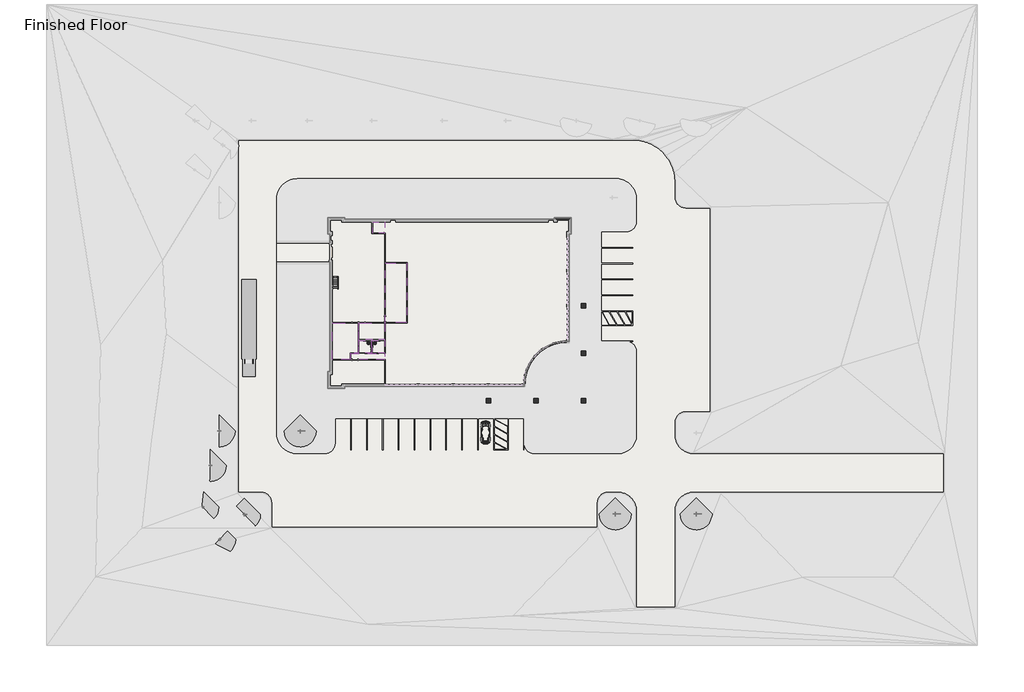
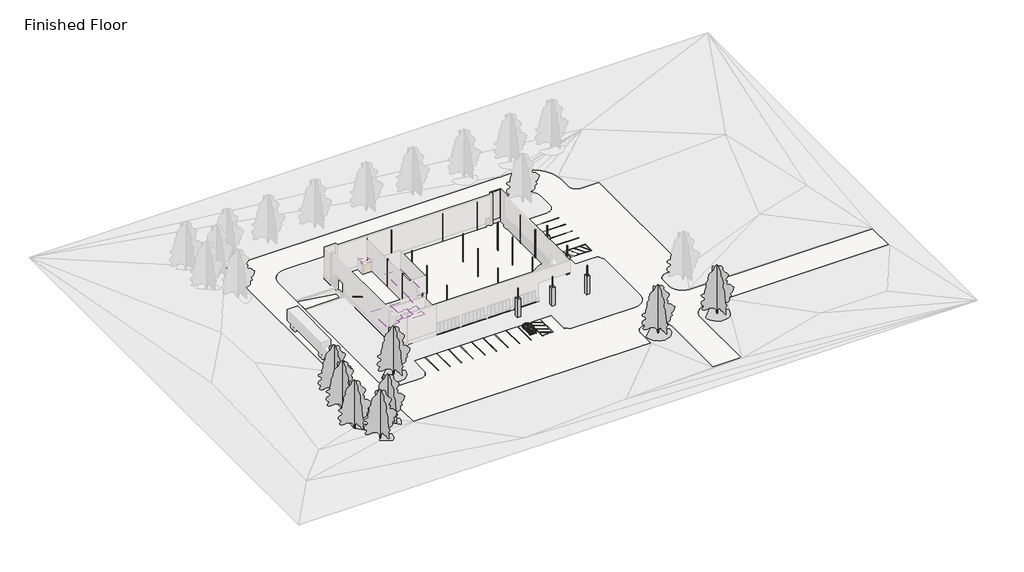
# One storey, part 6 of 7: 34 columns, 18 proxies, 8 geographic elements, 7 coverings, 4 slabs, 2 flow terminals, 2 railings, 2 walls, 1 stair flight.
"""IFC4 building model written with IfcOpenShell, lengths in millimetres."""

from ifc_helpers import new_model, si_unit, point, frame, frame_2d, origin, origin_with_axes, place, context, project, spatial, polyline, circle_curve, trimmed, segment, composite_curve, outline, extrude, faceted_brep, triangles, transform, mapped, element, save
from components import specialty_equipment_9c1522b1, specialty_equipment_28a0cf3e, proxy_832_grab_bars_51fee9e1, proxy_832_grab_bars_99aa9c40, proxy_832_grab_bars_3fec91fc, proxy_832_grab_bars_8b3c1caf, parking_space_9_x_18_90_deg_9fe051ab, rpc_beetle_rpc_beetle_e6dad58a, sa12_a1c1abd2, sa12_6de3b1ef, hss_hollow_structural_section_column_hss4x4x1_4_63ca78b6, flow_terminal_a7ec1c32, flow_terminal_bb9b5f27, rpc_tree_deciduous_lombardy_poplar_40_01077960, guardrail_pipe_35f92d01, guardrail_pipe_0cfc6b11, stair_flight_92ed7c1f

model = new_model("IFC4")

# Units and contexts
model_context = context("Model", 3, world=origin())
ifc_project = project(units=[si_unit("LENGTHUNIT", "METRE", prefix="MILLI")], contexts=[model_context])

# Site, building, storey
site = spatial("IfcSite", under=ifc_project)
building = spatial("IfcBuilding", under=site)
storey = spatial("IfcBuildingStorey", under=building, Name="Finished Floor", Elevation=0.0)

# Proxies
placement = place(None, origin())
element("IfcBuildingElementProxy", 1, Name="Building Element Proxy", at=placement, inside=storey, context=model_context, shape_type="Tessellation", body=[
    triangles([(-22521.0718506, 7009.9285172, -304.9595106), (-22521.0718506, 7009.9285172, 0.0), (-22521.0718506, 6866.5983124, -304.9595106), (-22521.0718506, 6866.5983124, 0.0), (-22521.0718506, 6736.0620941, -304.9595106), (-22521.0718506, 6736.0620941, 0.0), (-22521.0718506, 6241.971904, -304.9595106), (-22521.0718506, 6241.971904, 0.0), (-22521.0718506, 6221.2923523, -304.9595106), (-22521.0718506, 6221.2923523, 0.0), (-22521.0718506, -11917.7318573, -304.9595106), (-22521.0718506, -11917.7318573, 0.0), (-22825.8718506, -11917.7318573, -304.9595106), (-22825.8718506, -11917.7318573, 0.0), (-22825.8718506, -14813.3318573, -304.9595106), (-22825.8718506, -14813.3318573, 0.0), (-19930.2718506, -14813.3318573, -304.9595106), (-19930.2718506, -14813.3318573, 0.0), (-19930.2718506, -14508.5318573, -304.9595106), (-19930.2718506, -14508.5318573, 0.0), (2090.6561096, -14508.5318573, -304.9595106), (2090.6561096, -14508.5318573, 0.0), (2387.6770786, -14508.5318573, -304.9595106), (2387.6770786, -14508.5318573, 0.0), (2691.9551628, -14508.5318573, -304.9595106), (2691.9551628, -14508.5318573, 0.0), (2986.9037292, -14508.5318573, -304.9595106), (2986.9037292, -14508.5318573, 0.0), (11098.6690613, -14508.5318573, -304.9595106), (11098.6690613, -14508.5318573, 0.0), (11094.5018738, -13674.2188293, -304.9595106), (11094.5018738, -13674.2188293, 0.0), (11184.366156, -12844.7485291, -304.9595106), (11184.366156, -12844.7485291, 0.0), (11367.1177917, -12030.6865906, -304.9595106), (11367.1177917, -12030.6865906, 0.0), (11640.4278534, -11242.399823, -304.9595106), (11640.4278534, -11242.399823, 0.0), (12000.8174835, -10489.9271484, -304.9595106), (12000.8174835, -10489.9271484, 0.0), (12443.6951019, -9782.8528656, -304.9595106), (12443.6951019, -9782.8528656, 0.0), (12963.4215179, -9130.1816574, -304.9595106), (12963.4215179, -9130.1816574, 0.0), (13133.0425598, -8960.5606155, -304.9595106), (13133.0425598, -8960.5606155, 0.0), (13299.7951721, -8793.8080032, -304.9595106), (13299.7951721, -8793.8080032, 0.0), (13553.3773682, -8540.2258072, -304.9595106), (13553.3773682, -8540.2258072, 0.0), (14206.0491577, -8020.4993912, -304.9595106), (14206.0491577, -8020.4993912, 0.0), (14913.1234406, -7577.6211914, -304.9595106), (14913.1234406, -7577.6211914, 0.0), (15665.5949524, -7217.2321426, -304.9595106), (15665.5949524, -7217.2321426, 0.0), (16453.8828827, -6943.9214996, -304.9595106), (16453.8828827, -6943.9214996, 0.0), (17267.9448212, -6761.1704453, -304.9595106), (17267.9448212, -6761.1704453, 0.0), (18097.4139587, -6671.306163, -304.9595106), (18097.4139587, -6671.306163, 0.0), (18931.7269867, -6675.4733505, -304.9595106), (18931.7269867, -6675.4733505, 0.0), (18931.7269867, 11856.6681427, -304.9595106), (18931.7269867, 11856.6681427, 0.0), (19236.5269867, 11856.6681427, -304.9595106), (19236.5269867, 11856.6681427, 0.0)], [[1, 4, 2], [1, 3, 4], [3, 6, 4], [3, 5, 6], [5, 8, 6], [5, 7, 8], [7, 10, 8], [7, 9, 10], [9, 12, 10], [9, 11, 12], [11, 14, 12], [11, 13, 14], [13, 16, 14], [13, 15, 16], [15, 18, 16], [15, 17, 18], [17, 20, 18], [17, 19, 20], [19, 22, 20], [19, 21, 22], [21, 24, 22], [21, 23, 24], [23, 26, 24], [23, 25, 26], [25, 28, 26], [25, 27, 28], [27, 30, 28], [27, 29, 30], [29, 32, 30], [29, 31, 32], [31, 34, 32], [31, 33, 34], [33, 36, 34], [33, 35, 36], [35, 38, 36], [35, 37, 38], [37, 40, 38], [37, 39, 40], [39, 42, 40], [39, 41, 42], [41, 44, 42], [41, 43, 44], [43, 46, 44], [43, 45, 46], [45, 48, 46], [45, 47, 48], [47, 50, 48], [47, 49, 50], [49, 52, 50], [49, 51, 52], [51, 54, 52], [51, 53, 54], [53, 56, 54], [53, 55, 56], [55, 58, 56], [55, 57, 58], [57, 60, 58], [57, 59, 60], [59, 62, 60], [59, 61, 62], [61, 64, 62], [61, 63, 64], [63, 66, 64], [63, 65, 66], [65, 68, 66], [65, 67, 68]], closed=False),
    triangles([(19236.5269867, 11856.6681427, -304.9595106), (19236.5269867, 11856.6681427, 0.0), (19236.5269867, 14041.7661621, -304.9595106), (19236.5269867, 14041.7661621, 0.0), (19236.5269867, 14285.8966095, -304.9595106), (19236.5269867, 14285.8966095, 0.0), (19236.5269867, 14752.2681427, -304.9595106), (19236.5269867, 14752.2681427, 0.0), (16340.9269867, 14752.2681427, -304.9595106), (16340.9269867, 14752.2681427, 0.0), (16340.9269867, 14447.4681427, -304.9595106), (16340.9269867, 14447.4681427, 0.0), (-5294.182663, 14447.4681427, -304.9595106), (-5294.182663, 14447.4681427, 0.0), (-11222.3161652, 14447.4681427, -304.9595106), (-11222.3161652, 14447.4681427, 0.0), (-19930.2718506, 14447.4681427, -304.9595106), (-19930.2718506, 14447.4681427, 0.0), (-19930.2718506, 14752.2681427, -304.9595106), (-19930.2718506, 14752.2681427, 0.0), (-22825.8718506, 14752.2681427, -304.9595106), (-22825.8718506, 14752.2681427, 0.0), (-22825.8718506, 11856.6681427, -304.9595106), (-22825.8718506, 11856.6681427, 0.0), (-22521.0718506, 11856.6681427, -304.9595106), (-22521.0718506, 11856.6681427, 0.0), (-22521.0718506, 10588.4118347, -304.9595106), (-22521.0718506, 10588.4118347, 0.0), (-22521.0718506, 10532.9012695, -304.9595106), (-22521.0718506, 10532.9012695, 0.0), (-22521.0718506, 10362.7290985, -304.9595106), (-22521.0718506, 10362.7290985, 0.0)], [[1, 4, 2], [1, 3, 4], [3, 6, 4], [3, 5, 6], [5, 8, 6], [5, 7, 8], [7, 10, 8], [7, 9, 10], [9, 12, 10], [9, 11, 12], [11, 14, 12], [11, 13, 14], [13, 16, 14], [13, 15, 16], [15, 18, 16], [15, 17, 18], [17, 20, 18], [17, 19, 20], [19, 22, 20], [19, 21, 22], [21, 24, 22], [21, 23, 24], [23, 26, 24], [23, 25, 26], [25, 28, 26], [25, 27, 28], [27, 30, 28], [27, 29, 30], [29, 32, 30], [29, 31, 32]], closed=False),
    triangles([(19236.5269867, 11856.6681427, -304.9595106), (19236.5269867, 14752.2681427, -304.9595106), (16340.9269867, 14752.2681427, -304.9595106), (16340.9269867, 14447.4681427, -304.9595106), (-19930.2718506, 14447.4681427, -304.9595106), (-19930.2718506, 14752.2681427, -304.9595106), (-22825.8718506, 14752.2681427, -304.9595106), (-22825.8718506, 11856.6681427, -304.9595106), (-22521.0718506, 11856.6681427, -304.9595106), (-22521.0718506, -11917.7318573, -304.9595106), (-22825.8718506, -11917.7318573, -304.9595106), (-22825.8718506, -14813.3318573, -304.9595106), (-19930.2718506, -14813.3318573, -304.9595106), (-19930.2718506, -14508.5318573, -304.9595106), (11098.6690613, -14508.5318573, -304.9595106), (11094.5018738, -13674.2188293, -304.9595106), (11184.366156, -12844.7485291, -304.9595106), (11367.1177917, -12030.6865906, -304.9595106), (11640.4278534, -11242.399823, -304.9595106), (12000.8174835, -10489.9271484, -304.9595106), (12443.6951019, -9782.8528656, -304.9595106), (12963.4215179, -9130.1816574, -304.9595106), (13553.3773682, -8540.2258072, -304.9595106), (14206.0491577, -8020.4993912, -304.9595106), (14913.1234406, -7577.6211914, -304.9595106), (15665.5949524, -7217.2321426, -304.9595106), (16453.8828827, -6943.9214996, -304.9595106), (17267.9448212, -6761.1704453, -304.9595106), (18097.4139587, -6671.306163, -304.9595106), (18931.7269867, -6675.4733505, -304.9595106), (18931.7269867, 11856.6681427, -304.9595106)], [[12, 13, 14], [12, 14, 10], [15, 16, 14], [17, 18, 14], [16, 17, 14], [14, 18, 19], [7, 8, 9], [9, 5, 7], [14, 5, 10], [20, 5, 14], [6, 7, 5], [20, 14, 19], [5, 9, 10], [11, 12, 10], [22, 5, 21], [22, 23, 4], [22, 4, 5], [24, 25, 4], [26, 27, 31], [25, 26, 31], [23, 24, 4], [25, 31, 4], [2, 3, 4], [31, 28, 29], [31, 27, 28], [30, 31, 29], [1, 2, 31], [31, 2, 4], [5, 20, 21]], closed=False),
])
specialty_equipment_shape = specialty_equipment_9c1522b1(model_context)
element("IfcBuildingElementProxy", 2, Name="Bradley-Washroom_Accessories-Mirrors-740_Custom : Bradley-Washroom_Accessories-Mirrors-740_Custom", ObjectType="Bradley-Washroom_Accessories-Mirrors-740_Custom : Bradley-Washroom_Accessories-Mirrors-740_Custom", at=placement, inside=storey, context=model_context, shape_type="MappedRepresentation", body=[
    mapped(specialty_equipment_shape, transform((-15156.6602721, -8294.2625557, 1371.0753881), x_axis=(0.0, 1.0, 0.0), y_axis=(0.0, 0.0, 1.0), z_axis=(1.0, 0.0, 0.0))),
])
specialty_equipment_2_shape = specialty_equipment_28a0cf3e(model_context)
element("IfcBuildingElementProxy", 3, Name="Bradley-Washroom_Accessories-Mirrors-740_Custom : Bradley-Washroom_Accessories-Mirrors-740_Custom", ObjectType="Bradley-Washroom_Accessories-Mirrors-740_Custom : Bradley-Washroom_Accessories-Mirrors-740_Custom", at=placement, inside=storey, context=model_context, shape_type="MappedRepresentation", body=[
    mapped(specialty_equipment_2_shape, transform((-15328.1102721, -8294.2625557, 1371.0753881), x_axis=(0.0, 1.0, 0.0), y_axis=(0.0, 0.0, -1.0), z_axis=(-1.0, 0.0, 0.0))),
])
proxy_832_grab_bars_shape = proxy_832_grab_bars_51fee9e1(model_context)
element("IfcBuildingElementProxy", 4, Name="832_Grab_Bars : 8320-001360", ObjectType="832_Grab_Bars : 8320-001360", at=placement, inside=storey, context=model_context, shape_type="MappedRepresentation", body=[
    mapped(proxy_832_grab_bars_shape, transform((-15156.6602721, -7387.8000557, 1374.775), x_axis=(0.0, 1.0, 0.0), y_axis=(0.0, 0.0, 1.0), z_axis=(1.0, 0.0, 0.0))),
])
proxy_832_grab_bars_2_shape = proxy_832_grab_bars_99aa9c40(model_context)
element("IfcBuildingElementProxy", 5, Name="832_Grab_Bars : 8320-001420", ObjectType="832_Grab_Bars : 8320-001420", at=placement, inside=storey, context=model_context, shape_type="MappedRepresentation", body=[
    mapped(proxy_832_grab_bars_2_shape, transform((-14395.8938987, -6516.2625557, 1374.775), x_axis=(1.0, 0.0, 0.0), y_axis=(0.0, 0.0, 1.0), z_axis=(0.0, -1.0, 0.0))),
])
proxy_832_grab_bars_3_shape = proxy_832_grab_bars_3fec91fc(model_context)
element("IfcBuildingElementProxy", 6, Name="832_Grab_Bars : 8320-001360", ObjectType="832_Grab_Bars : 8320-001360", at=placement, inside=storey, context=model_context, shape_type="MappedRepresentation", body=[
    mapped(proxy_832_grab_bars_3_shape, transform((-15328.1102721, -7387.8000557, 1374.775), x_axis=(0.0, 1.0, 0.0), y_axis=(0.0, 0.0, -1.0), z_axis=(-1.0, 0.0, 0.0))),
])
proxy_832_grab_bars_4_shape = proxy_832_grab_bars_8b3c1caf(model_context)
element("IfcBuildingElementProxy", 7, Name="832_Grab_Bars : 8320-001420", ObjectType="832_Grab_Bars : 8320-001420", at=placement, inside=storey, context=model_context, shape_type="MappedRepresentation", body=[
    mapped(proxy_832_grab_bars_4_shape, transform((-16088.8766454, -6516.2625557, 1374.775), x_axis=(-1.0, 0.0, 0.0), y_axis=(0.0, 0.0, -1.0), z_axis=(0.0, -1.0, 0.0))),
])
parking_space_9_x_18_90_deg_shape = parking_space_9_x_18_90_deg_9fe051ab(model_context)
element("IfcBuildingElementProxy", 8, Name="Parking Space : 9' x 18' - 90 deg", ObjectType="Parking Space : 9' x 18' - 90 deg", at=placement, inside=storey, context=model_context, shape_type="MappedRepresentation", body=[
    mapped(parking_space_9_x_18_90_deg_shape, transform((378.6147279, -19994.9313057, -101.6), x_axis=(-1.0, 0.0, 0.0), y_axis=(0.0, -1.0, 0.0), z_axis=(0.0, 0.0, 1.0))),
])
element("IfcBuildingElementProxy", 9, Name="Parking Space : 9' x 18' - 90 deg", ObjectType="Parking Space : 9' x 18' - 90 deg", at=placement, inside=storey, context=model_context, shape_type="MappedRepresentation", body=[
    mapped(parking_space_9_x_18_90_deg_shape, transform((-2364.5852721, -19994.9313057, -101.6), x_axis=(-1.0, 0.0, 0.0), y_axis=(0.0, -1.0, 0.0), z_axis=(0.0, 0.0, 1.0))),
])
element("IfcBuildingElementProxy", 10, Name="Parking Space : 9' x 18' - 90 deg", ObjectType="Parking Space : 9' x 18' - 90 deg", at=placement, inside=storey, context=model_context, shape_type="MappedRepresentation", body=[
    mapped(parking_space_9_x_18_90_deg_shape, transform((-5107.7852721, -19994.9313057, -101.6), x_axis=(-1.0, 0.0, 0.0), y_axis=(0.0, -1.0, 0.0), z_axis=(0.0, 0.0, 1.0))),
])
element("IfcBuildingElementProxy", 11, Name="Parking Space : 9' x 18' - 90 deg", ObjectType="Parking Space : 9' x 18' - 90 deg", at=placement, inside=storey, context=model_context, shape_type="MappedRepresentation", body=[
    mapped(parking_space_9_x_18_90_deg_shape, transform((-7850.9852721, -19994.9313057, -101.6), x_axis=(-1.0, 0.0, 0.0), y_axis=(0.0, -1.0, 0.0), z_axis=(0.0, 0.0, 1.0))),
])
element("IfcBuildingElementProxy", 12, Name="Parking Space : 9' x 18' - 90 deg", ObjectType="Parking Space : 9' x 18' - 90 deg", at=placement, inside=storey, context=model_context, shape_type="MappedRepresentation", body=[
    mapped(parking_space_9_x_18_90_deg_shape, transform((-10594.1852721, -19994.9313057, -101.6), x_axis=(-1.0, 0.0, 0.0), y_axis=(0.0, -1.0, 0.0), z_axis=(0.0, 0.0, 1.0))),
])
element("IfcBuildingElementProxy", 13, Name="Parking Space : 9' x 18' - 90 deg", ObjectType="Parking Space : 9' x 18' - 90 deg", at=placement, inside=storey, context=model_context, shape_type="MappedRepresentation", body=[
    mapped(parking_space_9_x_18_90_deg_shape, transform((-13337.3852721, -19994.9313057, -101.6), x_axis=(-1.0, 0.0, 0.0), y_axis=(0.0, -1.0, 0.0), z_axis=(0.0, 0.0, 1.0))),
])
element("IfcBuildingElementProxy", 14, Name="Parking Space : 9' x 18' - 90 deg", ObjectType="Parking Space : 9' x 18' - 90 deg", at=placement, inside=storey, context=model_context, shape_type="MappedRepresentation", body=[
    mapped(parking_space_9_x_18_90_deg_shape, transform((-16080.5852721, -19994.9313057, -101.6), x_axis=(-1.0, 0.0, 0.0), y_axis=(0.0, -1.0, 0.0), z_axis=(0.0, 0.0, 1.0))),
])
element("IfcBuildingElementProxy", 15, Name="Parking Space : 9' x 18' - 90 deg", ObjectType="Parking Space : 9' x 18' - 90 deg", at=placement, inside=storey, context=model_context, shape_type="MappedRepresentation", body=[
    mapped(parking_space_9_x_18_90_deg_shape, transform((-18823.7852721, -19994.9313057, -101.6), x_axis=(-1.0, 0.0, 0.0), y_axis=(0.0, -1.0, 0.0), z_axis=(0.0, 0.0, 1.0))),
])
rpc_beetle_rpc_beetle_shape = rpc_beetle_rpc_beetle_e6dad58a(model_context)
element("IfcBuildingElementProxy", 16, Name="RPC Beetle : RPC Beetle", ObjectType="RPC Beetle : RPC Beetle", at=placement, inside=storey, context=model_context, shape_type="MappedRepresentation", body=[
    mapped(rpc_beetle_rpc_beetle_shape, transform((4429.9147279, -23679.5188057, -101.6), x_axis=(1.0, 0.0, 0.0), y_axis=(0.0, 1.0, 0.0), z_axis=(0.0, 0.0, 1.0))),
])
sa12_shape = sa12_a1c1abd2(model_context)
element("IfcBuildingElementProxy", 17, Name="Security_Accessories-Bradley-SA12 : SA12", ObjectType="Security_Accessories-Bradley-SA12 : SA12", at=placement, inside=storey, context=model_context, shape_type="MappedRepresentation", body=[
    mapped(sa12_shape, transform((-14264.4852721, -6516.2625557, 482.6), x_axis=(1.0, 0.0, 0.0), y_axis=(0.0, 0.0, 1.0), z_axis=(0.0, -1.0, 0.0))),
])
sa12_2_shape = sa12_6de3b1ef(model_context)
element("IfcBuildingElementProxy", 18, Name="Security_Accessories-Bradley-SA12 : SA12", ObjectType="Security_Accessories-Bradley-SA12 : SA12", at=placement, inside=storey, context=model_context, shape_type="MappedRepresentation", body=[
    mapped(sa12_2_shape, transform((-16137.7352721, -6516.2625557, 310.7591476), x_axis=(-1.0, 0.0, 0.0), y_axis=(0.0, 0.0, -1.0), z_axis=(0.0, -1.0, 0.0))),
])

# Columns
hss_hollow_structural_section_column_hss4x4x1_4_shape = hss_hollow_structural_section_column_hss4x4x1_4_63ca78b6(model_context)
element("IfcColumn", 19, ObjectType="HSS-Hollow Structural Section-Column : HSS4X4X1/4", at=placement, inside=storey, context=model_context, shape_type="MappedRepresentation", body=[
    mapped(hss_hollow_structural_section_column_hss4x4x1_4_shape, transform((-22117.8477721, -514.7188057, 0.0), x_axis=(-1.0, 0.0, 0.0), y_axis=(0.0, -1.0, 0.0), z_axis=(0.0, 0.0, 1.0))),
])
element("IfcColumn", 20, ObjectType="HSS-Hollow Structural Section-Column : HSS4X4X1/4", at=placement, inside=storey, context=model_context, shape_type="MappedRepresentation", body=[
    mapped(hss_hollow_structural_section_column_hss4x4x1_4_shape, transform((-22117.8477721, -8730.8250557, 0.0), x_axis=(-1.0, 0.0, 0.0), y_axis=(0.0, -1.0, 0.0), z_axis=(0.0, 0.0, 1.0))),
])
element("IfcColumn", 21, ObjectType="HSS-Hollow Structural Section-Column : HSS4X4X1/4", at=placement, inside=storey, context=model_context, shape_type="MappedRepresentation", body=[
    mapped(hss_hollow_structural_section_column_hss4x4x1_4_shape, transform((-22117.8477721, 5555.8811943, 0.0), x_axis=(-1.0, 0.0, 0.0), y_axis=(0.0, -1.0, 0.0), z_axis=(0.0, 0.0, 1.0))),
])
element("IfcColumn", 22, ObjectType="HSS-Hollow Structural Section-Column : HSS4X4X1/4", at=placement, inside=storey, context=model_context, shape_type="MappedRepresentation", body=[
    mapped(hss_hollow_structural_section_column_hss4x4x1_4_shape, transform((-12943.6852721, 14044.2436943, 0.0), x_axis=(-1.0, 0.0, 0.0), y_axis=(0.0, -1.0, 0.0), z_axis=(0.0, 0.0, 1.0))),
])
element("IfcColumn", 23, ObjectType="HSS-Hollow Structural Section-Column : HSS4X4X1/4", at=placement, inside=storey, context=model_context, shape_type="MappedRepresentation", body=[
    mapped(hss_hollow_structural_section_column_hss4x4x1_4_shape, transform((-12943.6852721, -514.7188057, 0.0), x_axis=(-1.0, 0.0, 0.0), y_axis=(0.0, -1.0, 0.0), z_axis=(0.0, 0.0, 1.0))),
])
element("IfcColumn", 24, ObjectType="HSS-Hollow Structural Section-Column : HSS4X4X1/4", at=placement, inside=storey, context=model_context, shape_type="MappedRepresentation", body=[
    mapped(hss_hollow_structural_section_column_hss4x4x1_4_shape, transform((-12943.6852721, -8730.8250557, 0.0), x_axis=(-1.0, 0.0, 0.0), y_axis=(0.0, -1.0, 0.0), z_axis=(0.0, 0.0, 1.0))),
])
element("IfcColumn", 25, ObjectType="HSS-Hollow Structural Section-Column : HSS4X4X1/4", at=placement, inside=storey, context=model_context, shape_type="MappedRepresentation", body=[
    mapped(hss_hollow_structural_section_column_hss4x4x1_4_shape, transform((-12943.6852721, -14105.3063057, 0.0), x_axis=(-1.0, 0.0, 0.0), y_axis=(0.0, -1.0, 0.0), z_axis=(0.0, 0.0, 1.0))),
])
element("IfcColumn", 26, ObjectType="HSS-Hollow Structural Section-Column : HSS4X4X1/4", at=placement, inside=storey, context=model_context, shape_type="MappedRepresentation", body=[
    mapped(hss_hollow_structural_section_column_hss4x4x1_4_shape, transform((-12943.6852721, 5555.8811943, 0.0), x_axis=(-1.0, 0.0, 0.0), y_axis=(0.0, -1.0, 0.0), z_axis=(0.0, 0.0, 1.0))),
])
element("IfcColumn", 27, ObjectType="HSS-Hollow Structural Section-Column : HSS4X4X1/4", at=placement, inside=storey, context=model_context, shape_type="MappedRepresentation", body=[
    mapped(hss_hollow_structural_section_column_hss4x4x1_4_shape, transform((4937.9147279, 14044.2436943, 0.0), x_axis=(-1.0, 0.0, 0.0), y_axis=(0.0, -1.0, 0.0), z_axis=(0.0, 0.0, 1.0))),
])
element("IfcColumn", 28, ObjectType="HSS-Hollow Structural Section-Column : HSS4X4X1/4", at=placement, inside=storey, context=model_context, shape_type="MappedRepresentation", body=[
    mapped(hss_hollow_structural_section_column_hss4x4x1_4_shape, transform((4937.9147279, -514.7188057, 0.0), x_axis=(-1.0, 0.0, 0.0), y_axis=(0.0, -1.0, 0.0), z_axis=(0.0, 0.0, 1.0))),
])
element("IfcColumn", 29, ObjectType="HSS-Hollow Structural Section-Column : HSS4X4X1/4", at=placement, inside=storey, context=model_context, shape_type="MappedRepresentation", body=[
    mapped(hss_hollow_structural_section_column_hss4x4x1_4_shape, transform((4937.9147279, -8730.8250557, 0.0), x_axis=(-1.0, 0.0, 0.0), y_axis=(0.0, -1.0, 0.0), z_axis=(0.0, 0.0, 1.0))),
])
element("IfcColumn", 30, ObjectType="HSS-Hollow Structural Section-Column : HSS4X4X1/4", at=placement, inside=storey, context=model_context, shape_type="MappedRepresentation", body=[
    mapped(hss_hollow_structural_section_column_hss4x4x1_4_shape, transform((4937.9147279, -14105.3063057, 0.0), x_axis=(-1.0, 0.0, 0.0), y_axis=(0.0, -1.0, 0.0), z_axis=(0.0, 0.0, 1.0))),
])
element("IfcColumn", 31, ObjectType="HSS-Hollow Structural Section-Column : HSS4X4X1/4", at=placement, inside=storey, context=model_context, shape_type="MappedRepresentation", body=[
    mapped(hss_hollow_structural_section_column_hss4x4x1_4_shape, transform((4937.9147279, -16946.9313057, 0.0), x_axis=(-1.0, 0.0, 0.0), y_axis=(0.0, -1.0, 0.0), z_axis=(0.0, 0.0, 1.0))),
])
element("IfcColumn", 32, ObjectType="HSS-Hollow Structural Section-Column : HSS4X4X1/4", at=placement, inside=storey, context=model_context, shape_type="MappedRepresentation", body=[
    mapped(hss_hollow_structural_section_column_hss4x4x1_4_shape, transform((4937.9147279, 5555.8811943, 0.0), x_axis=(-1.0, 0.0, 0.0), y_axis=(0.0, -1.0, 0.0), z_axis=(0.0, 0.0, 1.0))),
])
element("IfcColumn", 33, ObjectType="HSS-Hollow Structural Section-Column : HSS4X4X1/4", at=placement, inside=storey, context=model_context, shape_type="MappedRepresentation", body=[
    mapped(hss_hollow_structural_section_column_hss4x4x1_4_shape, transform((13154.0209779, 14044.2436943, 0.0), x_axis=(-1.0, 0.0, 0.0), y_axis=(0.0, -1.0, 0.0), z_axis=(0.0, 0.0, 1.0))),
])
element("IfcColumn", 34, ObjectType="HSS-Hollow Structural Section-Column : HSS4X4X1/4", at=placement, inside=storey, context=model_context, shape_type="MappedRepresentation", body=[
    mapped(hss_hollow_structural_section_column_hss4x4x1_4_shape, transform((13154.0209779, -514.7188057, 0.0), x_axis=(-1.0, 0.0, 0.0), y_axis=(0.0, -1.0, 0.0), z_axis=(0.0, 0.0, 1.0))),
])
element("IfcColumn", 35, ObjectType="HSS-Hollow Structural Section-Column : HSS4X4X1/4", at=placement, inside=storey, context=model_context, shape_type="MappedRepresentation", body=[
    mapped(hss_hollow_structural_section_column_hss4x4x1_4_shape, transform((13154.0209779, -8730.8250557, 0.0), x_axis=(-1.0, 0.0, 0.0), y_axis=(0.0, -1.0, 0.0), z_axis=(0.0, 0.0, 1.0))),
])
element("IfcColumn", 36, ObjectType="HSS-Hollow Structural Section-Column : HSS4X4X1/4", at=placement, inside=storey, context=model_context, shape_type="MappedRepresentation", body=[
    mapped(hss_hollow_structural_section_column_hss4x4x1_4_shape, transform((13154.0209779, -16946.9313057, 0.0), x_axis=(-1.0, 0.0, 0.0), y_axis=(0.0, -1.0, 0.0), z_axis=(0.0, 0.0, 1.0))),
])
element("IfcColumn", 37, ObjectType="HSS-Hollow Structural Section-Column : HSS4X4X1/4", at=placement, inside=storey, context=model_context, shape_type="MappedRepresentation", body=[
    mapped(hss_hollow_structural_section_column_hss4x4x1_4_shape, transform((13154.0209779, 5555.8811943, 0.0), x_axis=(-1.0, 0.0, 0.0), y_axis=(0.0, -1.0, 0.0), z_axis=(0.0, 0.0, 1.0))),
])
element("IfcColumn", 38, ObjectType="HSS-Hollow Structural Section-Column : HSS4X4X1/4", at=placement, inside=storey, context=model_context, shape_type="MappedRepresentation", body=[
    mapped(hss_hollow_structural_section_column_hss4x4x1_4_shape, transform((18528.5022279, -514.7188057, 0.0), x_axis=(-1.0, 0.0, 0.0), y_axis=(0.0, -1.0, 0.0), z_axis=(0.0, 0.0, 1.0))),
])
element("IfcColumn", 39, ObjectType="HSS-Hollow Structural Section-Column : HSS4X4X1/4", at=placement, inside=storey, context=model_context, shape_type="MappedRepresentation", body=[
    mapped(hss_hollow_structural_section_column_hss4x4x1_4_shape, transform((18528.5022279, 5555.8811943, 0.0), x_axis=(-1.0, 0.0, 0.0), y_axis=(0.0, -1.0, 0.0), z_axis=(0.0, 0.0, 1.0))),
])
element("IfcColumn", 40, ObjectType="HSS-Hollow Structural Section-Column : HSS4X4X1/4", at=placement, inside=storey, context=model_context, shape_type="MappedRepresentation", body=[
    mapped(hss_hollow_structural_section_column_hss4x4x1_4_shape, transform((21370.1272279, -514.7188057, 0.0), x_axis=(-1.0, 0.0, 0.0), y_axis=(0.0, -1.0, 0.0), z_axis=(0.0, 0.0, 1.0))),
])
element("IfcColumn", 41, ObjectType="HSS-Hollow Structural Section-Column : HSS4X4X1/4", at=placement, inside=storey, context=model_context, shape_type="MappedRepresentation", body=[
    mapped(hss_hollow_structural_section_column_hss4x4x1_4_shape, transform((21370.1272279, -8730.8250557, 0.0), x_axis=(-1.0, 0.0, 0.0), y_axis=(0.0, -1.0, 0.0), z_axis=(0.0, 0.0, 1.0))),
])
element("IfcColumn", 42, ObjectType="HSS-Hollow Structural Section-Column : HSS4X4X1/4", at=placement, inside=storey, context=model_context, shape_type="MappedRepresentation", body=[
    mapped(hss_hollow_structural_section_column_hss4x4x1_4_shape, transform((21370.1272279, -16946.9313057, 0.0), x_axis=(-1.0, 0.0, 0.0), y_axis=(0.0, -1.0, 0.0), z_axis=(0.0, 0.0, 1.0))),
])
element("IfcColumn", 43, ObjectType="HSS-Hollow Structural Section-Column : HSS4X4X1/4", at=placement, inside=storey, context=model_context, shape_type="MappedRepresentation", body=[
    mapped(hss_hollow_structural_section_column_hss4x4x1_4_shape, transform((-7177.8852721, 14044.2436943, 0.0), x_axis=(-1.0, 0.0, 0.0), y_axis=(0.0, -1.0, 0.0), z_axis=(0.0, 0.0, 1.0))),
])
element("IfcColumn", 44, ObjectType="HSS-Hollow Structural Section-Column : HSS4X4X1/4", at=placement, inside=storey, context=model_context, shape_type="MappedRepresentation", body=[
    mapped(hss_hollow_structural_section_column_hss4x4x1_4_shape, transform((-7177.8852721, -514.7188057, 0.0), x_axis=(-1.0, 0.0, 0.0), y_axis=(0.0, -1.0, 0.0), z_axis=(0.0, 0.0, 1.0))),
])
element("IfcColumn", 45, ObjectType="HSS-Hollow Structural Section-Column : HSS4X4X1/4", at=placement, inside=storey, context=model_context, shape_type="MappedRepresentation", body=[
    mapped(hss_hollow_structural_section_column_hss4x4x1_4_shape, transform((-7177.8852721, -8730.8250557, 0.0), x_axis=(-1.0, 0.0, 0.0), y_axis=(0.0, -1.0, 0.0), z_axis=(0.0, 0.0, 1.0))),
])
element("IfcColumn", 46, ObjectType="HSS-Hollow Structural Section-Column : HSS4X4X1/4", at=placement, inside=storey, context=model_context, shape_type="MappedRepresentation", body=[
    mapped(hss_hollow_structural_section_column_hss4x4x1_4_shape, transform((-7177.8852721, -14105.3063057, 0.0), x_axis=(-1.0, 0.0, 0.0), y_axis=(0.0, -1.0, 0.0), z_axis=(0.0, 0.0, 1.0))),
])
element("IfcColumn", 47, ObjectType="HSS-Hollow Structural Section-Column : HSS4X4X1/4", at=placement, inside=storey, context=model_context, shape_type="MappedRepresentation", body=[
    mapped(hss_hollow_structural_section_column_hss4x4x1_4_shape, transform((-7177.8852721, 5555.8811943, 0.0), x_axis=(-1.0, 0.0, 0.0), y_axis=(0.0, -1.0, 0.0), z_axis=(0.0, 0.0, 1.0))),
])
element("IfcColumn", 48, ObjectType="Rectangular Column : 32\" x 32\"", at=placement, inside=storey, context=model_context, shape_type="SweptSolid", body=[
    extrude(outline(polyline([(5344.3147279, -16540.5313057), (5344.3147279, -17353.3313057), (4531.5147279, -17353.3313057), (4531.5147279, -16540.5313057), (5344.3147279, -16540.5313057)])), origin_with_axes(), (0.0, 0.0, 1.0), 4572.0),
])
element("IfcColumn", 49, ObjectType="Rectangular Column : 32\" x 32\"", at=placement, inside=storey, context=model_context, shape_type="SweptSolid", body=[
    extrude(outline(polyline([(13560.4209779, -16540.5313057), (13560.4209779, -17353.3313057), (12747.6209779, -17353.3313057), (12747.6209779, -16540.5313057), (13560.4209779, -16540.5313057)])), origin_with_axes(), (0.0, 0.0, 1.0), 4572.0),
])
element("IfcColumn", 50, ObjectType="Rectangular Column : 32\" x 32\"", at=placement, inside=storey, context=model_context, shape_type="SweptSolid", body=[
    extrude(outline(polyline([(21776.5272279, -16540.5313057), (21776.5272279, -17353.3313057), (20963.7272279, -17353.3313057), (20963.7272279, -16540.5313057), (21776.5272279, -16540.5313057)])), origin_with_axes(), (0.0, 0.0, 1.0), 4572.0),
])
element("IfcColumn", 51, ObjectType="Rectangular Column : 32\" x 32\"", at=placement, inside=storey, context=model_context, shape_type="SweptSolid", body=[
    extrude(outline(polyline([(21776.5272279, -8324.4250557), (21776.5272279, -9137.2250557), (20963.7272279, -9137.2250557), (20963.7272279, -8324.4250557), (21776.5272279, -8324.4250557)])), origin_with_axes(), (0.0, 0.0, 1.0), 4572.0),
])
element("IfcColumn", 52, ObjectType="Rectangular Column : 32\" x 32\"", at=placement, inside=storey, context=model_context, shape_type="SweptSolid", body=[
    extrude(outline(polyline([(21776.5272279, -108.3188057), (21776.5272279, -921.1188057), (20963.7272279, -921.1188057), (20963.7272279, -108.3188057), (21776.5272279, -108.3188057)])), origin_with_axes(), (0.0, 0.0, 1.0), 4572.0),
])

# Coverings
element("IfcCovering", 53, ObjectType="24\" x 24\" ACT.", at=placement, inside=storey, context=model_context, shape_type="SweptSolid", body=[
    extrude(outline(polyline([(-18858.7102721, -8795.9125557), (-13013.5352721, -8795.9125557), (-13013.5352721, -9792.8625557), (-18858.7102721, -9792.8625557), (-18858.7102721, -8795.9125557)])), frame((0.0, 0.0, 2438.4), z_axis=(0.0, 0.0, 1.0), x_axis=(1.0, 0.0, 0.0)), (0.0, 0.0, 1.0), 38.1),
])
element("IfcCovering", 54, ObjectType="24\" x 24\" ACT.", at=placement, inside=storey, context=model_context, shape_type="SweptSolid", body=[
    extrude(outline(polyline([(-17461.7102721, -6516.2625557), (-15328.1102721, -6516.2625557), (-15328.1102721, -8675.2625557), (-17461.7102721, -8675.2625557), (-17461.7102721, -6516.2625557)])), frame((0.0, 0.0, 2438.4), z_axis=(0.0, 0.0, 1.0), x_axis=(1.0, 0.0, 0.0)), (0.0, 0.0, 1.0), 38.1),
])
element("IfcCovering", 55, ObjectType="24\" x 24\" ACT.", at=placement, inside=storey, context=model_context, shape_type="SweptSolid", body=[
    extrude(outline(polyline([(-15156.6602721, -6516.2625557), (-13023.0602721, -6516.2625557), (-13023.0602721, -8675.2625557), (-15156.6602721, -8675.2625557), (-15156.6602721, -6516.2625557)])), frame((0.0, 0.0, 2438.4), z_axis=(0.0, 0.0, 1.0), x_axis=(1.0, 0.0, 0.0)), (0.0, 0.0, 1.0), 38.1),
])
element("IfcCovering", 56, ObjectType="24\" x 24\" ACT.", at=placement, inside=storey, context=model_context, shape_type="SweptSolid", body=[
    extrude(outline(polyline([(-13023.0602721, -3500.0125557), (-13023.0602721, -6395.6125557), (-15055.0602721, -6395.6125557), (-17461.7102721, -6395.6125557), (-17461.7102721, -3500.0125557), (-13023.0602721, -3500.0125557)])), frame((0.0, 0.0, 2438.4), z_axis=(0.0, 0.0, 1.0), x_axis=(1.0, 0.0, 0.0)), (0.0, 0.0, 1.0), 38.1),
])
element("IfcCovering", 57, ObjectType="24\" x 24\" ACT.", at=placement, inside=storey, context=model_context, shape_type="SweptSolid", body=[
    extrude(outline(polyline([(-22067.0477721, -9792.8625557), (-22067.0477721, -3500.0125557), (-17582.3602721, -3500.0125557), (-17582.3602721, -8675.2625557), (-18979.3602721, -8675.2625557), (-18979.3602721, -9792.8625557), (-22067.0477721, -9792.8625557)])), frame((0.0, 0.0, 2438.4), z_axis=(0.0, 0.0, 1.0), x_axis=(1.0, 0.0, 0.0)), (0.0, 0.0, 1.0), 38.1),
])
element("IfcCovering", 58, ObjectType="24\" x 24\" ACT.", at=placement, inside=storey, context=model_context, shape_type="SweptSolid", body=[
    extrude(outline(polyline([(-9216.2352721, -3379.3625557), (-12883.3602721, -3379.3625557), (-12883.3602721, 6836.1999443), (-9216.2352721, 6836.1999443), (-9216.2352721, -3379.3625557)])), frame((0.0, 0.0, 2438.4), z_axis=(0.0, 0.0, 1.0), x_axis=(1.0, 0.0, 0.0)), (0.0, 0.0, 1.0), 38.1),
])
element("IfcCovering", 59, ObjectType="24\" x 24\" ACT.", at=placement, inside=storey, context=model_context, shape_type="SweptSolid", body=[
    extrude(outline(polyline([(-13023.0602721, 13993.4436943), (-13023.0602721, 12083.6811943), (-15085.2227721, 12083.6811943), (-15085.2227721, 13993.4436943), (-13023.0602721, 13993.4436943)])), frame((0.0, 0.0, 2438.4), z_axis=(0.0, 0.0, 1.0), x_axis=(1.0, 0.0, 0.0)), (0.0, 0.0, 1.0), 38.1),
])

# Flow terminals
flow_terminal_shape = flow_terminal_a7ec1c32(model_context)
element("IfcFlowTerminal", 60, ObjectType="Toilet-Commercial-Wall-3D : 15\" Seat Height", at=placement, inside=storey, context=model_context, shape_type="MappedRepresentation", body=[
    mapped(flow_terminal_shape, transform((-15242.3852721, -6568.5594018, 0.0), x_axis=(0.0, -1.0, 0.0), y_axis=(1.0, 0.0, 0.0), z_axis=(0.0, 0.0, 1.0))),
])
flow_terminal_2_shape = flow_terminal_bb9b5f27(model_context)
element("IfcFlowTerminal", 61, ObjectType="Toilet-Commercial-Wall-3D : 15\" Seat Height", at=placement, inside=storey, context=model_context, shape_type="MappedRepresentation", body=[
    mapped(flow_terminal_2_shape, transform((-15242.3852721, -6568.5594018, 0.0), x_axis=(0.0, -1.0, 0.0), y_axis=(1.0, 0.0, 0.0), z_axis=(0.0, 0.0, 1.0))),
])

# Geographic elements
rpc_tree_deciduous_lombardy_poplar_40_shape = rpc_tree_deciduous_lombardy_poplar_40_01077960(model_context)
element("IfcGeographicElement", 62, ObjectType="RPC Tree - Deciduous : Lombardy Poplar - 40'", at=placement, inside=storey, context=model_context, shape_type="MappedRepresentation", body=[
    mapped(rpc_tree_deciduous_lombardy_poplar_40_shape, transform((-27628.0602721, -22206.3188057, 0.0), x_axis=(1.0, 0.0, 0.0), y_axis=(0.0, 1.0, 0.0), z_axis=(0.0, 0.0, 1.0))),
])
element("IfcGeographicElement", 63, ObjectType="RPC Tree - Deciduous : Lombardy Poplar - 40'", at=placement, inside=storey, context=model_context, shape_type="MappedRepresentation", body=[
    mapped(rpc_tree_deciduous_lombardy_poplar_40_shape, transform((26856.5272279, -36555.7313057, 0.0), x_axis=(1.0, 0.0, 0.0), y_axis=(0.0, 1.0, 0.0), z_axis=(0.0, 0.0, 1.0))),
])
element("IfcGeographicElement", 64, ObjectType="RPC Tree - Deciduous : Lombardy Poplar - 40'", at=placement, inside=storey, context=model_context, shape_type="MappedRepresentation", body=[
    mapped(rpc_tree_deciduous_lombardy_poplar_40_shape, transform((40858.962333, -36555.7313057, 0.0), x_axis=(1.0, 0.0, 0.0), y_axis=(0.0, 1.0, 0.0), z_axis=(0.0, 0.0, 1.0))),
])
element("IfcGeographicElement", 65, ObjectType="RPC Tree - Deciduous : Lombardy Poplar - 40'", at=placement, inside=storey, context=model_context, shape_type="MappedRepresentation", body=[
    mapped(rpc_tree_deciduous_lombardy_poplar_40_shape, transform((-41648.8602721, -22206.3188057, 194.0663726), x_axis=(1.0, 0.0, 0.0), y_axis=(0.0, 1.0, 0.0), z_axis=(0.0, 0.0, 1.0))),
])
element("IfcGeographicElement", 66, ObjectType="RPC Tree - Deciduous : Lombardy Poplar - 40'", at=placement, inside=storey, context=model_context, shape_type="MappedRepresentation", body=[
    mapped(rpc_tree_deciduous_lombardy_poplar_40_shape, transform((-43179.8767573, -28154.3947556, 287.9022781), x_axis=(1.0, 0.0, 0.0), y_axis=(0.0, 1.0, 0.0), z_axis=(0.0, 0.0, 1.0))),
])
element("IfcGeographicElement", 67, ObjectType="RPC Tree - Deciduous : Lombardy Poplar - 40'", at=placement, inside=storey, context=model_context, shape_type="MappedRepresentation", body=[
    mapped(rpc_tree_deciduous_lombardy_poplar_40_shape, transform((-44450.1479065, -35358.4604304, 337.8915777), x_axis=(1.0, 0.0, 0.0), y_axis=(0.0, 1.0, 0.0), z_axis=(0.0, 0.0, 1.0))),
])
element("IfcGeographicElement", 68, ObjectType="RPC Tree - Deciduous : Lombardy Poplar - 40'", at=placement, inside=storey, context=model_context, shape_type="MappedRepresentation", body=[
    mapped(rpc_tree_deciduous_lombardy_poplar_40_shape, transform((-37246.0822317, -36628.7315797, 92.4439384), x_axis=(1.0, 0.0, 0.0), y_axis=(0.0, 1.0, 0.0), z_axis=(0.0, 0.0, 1.0))),
])
element("IfcGeographicElement", 69, ObjectType="RPC Tree - Deciduous : Lombardy Poplar - 40'", at=placement, inside=storey, context=model_context, shape_type="MappedRepresentation", body=[
    mapped(rpc_tree_deciduous_lombardy_poplar_40_shape, transform((-41556.6051698, -40939.2545178, 289.9981259), x_axis=(1.0, 0.0, 0.0), y_axis=(0.0, 1.0, 0.0), z_axis=(0.0, 0.0, 1.0))),
])

# Railings
guardrail_pipe_shape = guardrail_pipe_35f92d01(model_context)
element("IfcRailing", 70, ObjectType="Guardrail - Pipe", at=placement, inside=storey, context=model_context, shape_type="MappedRepresentation", body=[
    mapped(guardrail_pipe_shape, transform((0.0, 0.0, 0.0), x_axis=(1.0, 0.0, 0.0), y_axis=(0.0, 1.0, 0.0), z_axis=(0.0, 0.0, 1.0))),
])
guardrail_pipe_2_shape = guardrail_pipe_0cfc6b11(model_context)
element("IfcRailing", 71, ObjectType="Guardrail - Pipe", at=placement, inside=storey, context=model_context, shape_type="MappedRepresentation", body=[
    mapped(guardrail_pipe_2_shape, transform((0.0, 0.0, 0.0), x_axis=(1.0, 0.0, 0.0), y_axis=(0.0, 1.0, 0.0), z_axis=(0.0, 0.0, 1.0))),
])

# Slabs
element("IfcSlab", 72, ObjectType="Building Pad", at=placement, inside=storey, context=model_context, shape_type="SweptSolid", body=[
    extrude(outline(composite_curve([segment(polyline([(19236.5272279, 11856.6686943), (18931.7272279, 11856.6686943), (18931.7272279, -6675.4734778)]), True, "CONTINUOUS"), segment(trimmed(circle_curve(frame_2d((18477.7022279, -14054.5063057)), 7392.9875), [point((18931.7272279, -6675.4734778))], [point((11098.6694001, -14508.5313057))], True, "CARTESIAN"), True, "CONTINUOUS"), segment(polyline([(11098.6694001, -14508.5313057), (-19930.2727721, -14508.5313057), (-19930.2727721, -14813.3313057), (-22825.8727721, -14813.3313057), (-22825.8727721, -11917.7313057), (-22521.0727721, -11917.7313057), (-22521.0727721, 11856.6686943), (-22825.8727721, 11856.6686943), (-22825.8727721, 14752.2686943), (-19930.2727721, 14752.2686943), (-19930.2727721, 14447.4686943), (16340.9272279, 14447.4686943), (16340.9272279, 14752.2686943), (19236.5272279, 14752.2686943), (19236.5272279, 11856.6686943)]), True, "CONTINUOUS")], self_intersect=False)), frame((0.0, 0.0, -304.8), z_axis=(0.0, 0.0, 1.0), x_axis=(1.0, 0.0, 0.0)), (0.0, 0.0, 1.0), 304.8),
])
element("IfcSlab", 73, ObjectType="Floor Slab - 4\"", at=placement, inside=storey, context=model_context, shape_type="SweptSolid", body=[
    extrude(outline(composite_curve([segment(polyline([(16442.5272279, 14447.4686943), (16442.5272279, 14752.2686943), (19236.5272279, 14752.2686943), (19236.5272279, 11856.6686943), (18931.7272279, 11856.6686943), (18931.7272279, -6852.0273782)]), True, "CONTINUOUS"), segment(trimmed(circle_curve(frame_2d((18477.7022279, -14054.5063057)), 7216.775), [point((18931.7272279, -6852.0273782))], [point((11275.2233005, -14508.5313057))], True, "CARTESIAN"), True, "CONTINUOUS"), segment(polyline([(11275.2233005, -14508.5313057), (-19930.2727721, -14508.5313057), (-19930.2727721, -14813.3313057), (-22825.8727721, -14813.3313057), (-22825.8727721, -11917.7313057), (-22521.0727721, -11917.7313057), (-22521.0727721, 11856.6686943), (-22825.8727721, 11856.6686943), (-22825.8727721, 14752.2686943), (-19930.2727721, 14752.2686943), (-19930.2727721, 14447.4686943), (16442.5272279, 14447.4686943)]), True, "CONTINUOUS")], self_intersect=False)), frame((0.0, 0.0, -101.6), z_axis=(0.0, 0.0, 1.0), x_axis=(1.0, 0.0, 0.0)), (0.0, 0.0, 1.0), 101.6),
])
element("IfcSlab", 74, ObjectType="Ramp - 12\"", at=placement, inside=storey, context=model_context, shape_type="SweptSolid", body=[
    extrude(outline(polyline([(-460.2944956, -31624.494325), (-1760.7832889, -22521.0727721), (-1452.8887933, -22521.0727721), (-152.4, -31624.494325), (-460.2944956, -31624.494325)])), frame((0.0, 6776.6686943, 0.0), z_axis=(0.0, 1.0, 0.0), x_axis=(0.0, 0.0, 1.0)), (0.0, 0.0, 1.0), 3835.4),
])
element("IfcSlab", 75, ObjectType="Road", at=placement, inside=storey, context=model_context, shape_type="SweptSolid", body=[
    extrude(outline(composite_curve([segment(polyline([(40386.6047242, -26090.9313057), (83668.2047242, -26090.9313057), (83668.2047242, -32796.5313057), (40386.6047242, -32796.5313057)]), True, "CONTINUOUS"), segment(trimmed(circle_curve(frame_2d((40386.6047242, -35963.4088019)), 3166.8774963), [point((40386.6047242, -32796.5313057))], [point((37219.7272279, -35963.4088019))], True, "CARTESIAN"), True, "CONTINUOUS"), segment(polyline([(37219.7272279, -35963.4088019), (37219.7272279, -52716.6663094), (30514.1272279, -52716.6663094), (30514.1272279, -35963.4088019)]), True, "CONTINUOUS"), segment(trimmed(circle_curve(frame_2d((27347.2497317, -35963.4088019)), 3166.8774963), [point((30514.1272279, -35963.4088019))], [point((27347.2497317, -32796.5313057))], True, "CARTESIAN"), True, "CONTINUOUS"), segment(polyline([(27347.2497317, -32796.5313057), (25594.6049614, -32796.5313057)]), True, "CONTINUOUS"), segment(trimmed(circle_curve(frame_2d((25594.6049614, -34625.3313057)), 1828.8), [point((25594.6049614, -32796.5313057))], [point((23765.8049614, -34625.3313057))], True, "CARTESIAN"), True, "CONTINUOUS"), segment(polyline([(23765.8049614, -34625.3313057), (23765.8049614, -38892.5313057), (-32539.7852721, -38892.5313057), (-32539.7852721, -34625.3313057)]), True, "CONTINUOUS"), segment(trimmed(circle_curve(frame_2d((-34368.5852721, -34625.3313057)), 1828.8), [point((-32539.7852721, -34625.3313057))], [point((-34368.5852721, -32796.5313057))], True, "CARTESIAN"), True, "CONTINUOUS"), segment(polyline([(-34368.5852721, -32796.5313057), (-38330.094325, -32796.5313057), (-38330.094325, 28163.4686943), (29904.5272279, 28163.4686943)]), True, "CONTINUOUS"), segment(trimmed(circle_curve(frame_2d((29904.5272279, 20848.2686943)), 7315.2), [point((29904.5272279, 28163.4686943))], [point((37219.7272279, 20848.2686943))], False, "CARTESIAN"), True, "CONTINUOUS"), segment(polyline([(37219.7272279, 20848.2686943), (37219.7272279, 18217.7811943)]), True, "CONTINUOUS"), segment(trimmed(circle_curve(frame_2d((39048.5272279, 18217.7811943)), 1828.8), [point((37219.7272279, 18217.7811943))], [point((39048.5272279, 16388.9811943))], True, "CARTESIAN"), True, "CONTINUOUS"), segment(polyline([(39048.5272279, 16388.9811943), (43315.7272279, 16388.9811943), (43315.7272279, -18853.5188057), (39048.5272279, -18853.5188057)]), True, "CONTINUOUS"), segment(trimmed(circle_curve(frame_2d((39048.5272279, -20682.3188057)), 1828.8), [point((39048.5272279, -18853.5188057))], [point((37219.7272279, -20682.3188057))], True, "CARTESIAN"), True, "CONTINUOUS"), segment(polyline([(37219.7272279, -20682.3188057), (37219.7272279, -22924.0538094)]), True, "CONTINUOUS"), segment(trimmed(circle_curve(frame_2d((40386.6047242, -22924.0538094)), 3166.8774963), [point((37219.7272279, -22924.0538094))], [point((40386.6047242, -26090.9313057))], True, "CARTESIAN"), True, "CONTINUOUS")], self_intersect=False), holes=[composite_curve([segment(polyline([(24418.1272279, 12274.1811943), (28685.3272279, 12274.1811943)]), True, "CONTINUOUS"), segment(trimmed(circle_curve(frame_2d((28685.3272279, 14102.9811943)), 1828.8), [point((28685.3272279, 12274.1811943))], [point((30514.1272279, 14102.9811943))], True, "CARTESIAN"), True, "CONTINUOUS"), segment(polyline([(30514.1272279, 14102.9811943), (30514.1272279, 17952.6686943)]), True, "CONTINUOUS"), segment(trimmed(circle_curve(frame_2d((27008.9272279, 17952.6686943)), 3505.2), [point((30514.1272279, 17952.6686943))], [point((27008.9272279, 21457.8686943))], True, "CARTESIAN"), True, "CONTINUOUS"), segment(polyline([(27008.9272279, 21457.8686943), (-28159.8727721, 21457.8686943)]), True, "CONTINUOUS"), segment(trimmed(circle_curve(frame_2d((-28159.8727721, 17952.6686943)), 3505.2), [point((-28159.8727721, 21457.8686943))], [point((-31624.494325, 18484.4811943))], True, "CARTESIAN"), True, "CONTINUOUS"), segment(polyline([(-31624.494325, 18484.4811943), (-31624.494325, -23117.5438057)]), True, "CONTINUOUS"), segment(trimmed(circle_curve(frame_2d((-28159.8727721, -22585.7313057)), 3505.2), [point((-31624.494325, -23117.5438057))], [point((-28159.8727721, -26090.9313057))], True, "CARTESIAN"), True, "CONTINUOUS"), segment(polyline([(-28159.8727721, -26090.9313057), (-23395.7852721, -26090.9313057)]), True, "CONTINUOUS"), segment(trimmed(circle_curve(frame_2d((-23395.7852721, -24262.1313057)), 1828.8), [point((-23395.7852721, -26090.9313057))], [point((-21566.9852721, -24262.1313057))], True, "CARTESIAN"), True, "CONTINUOUS"), segment(polyline([(-21566.9852721, -24262.1313057), (-21566.9852721, -19994.9313057), (11084.7147279, -19994.9313057), (11084.7147279, -24262.1313057)]), True, "CONTINUOUS"), segment(trimmed(circle_curve(frame_2d((12913.5147279, -24262.1313057)), 1828.8), [point((11084.7147279, -24262.1313057))], [point((12913.5147279, -26090.9313057))], True, "CARTESIAN"), True, "CONTINUOUS"), segment(polyline([(12913.5147279, -26090.9313057), (27347.2497317, -26090.9313057)]), True, "CONTINUOUS"), segment(trimmed(circle_curve(frame_2d((27347.2497317, -22924.0538094)), 3166.8774963), [point((27347.2497317, -26090.9313057))], [point((30514.1272279, -22924.0538094))], True, "CARTESIAN"), True, "CONTINUOUS"), segment(polyline([(30514.1272279, -22924.0538094), (30514.1272279, -8490.3188057)]), True, "CONTINUOUS"), segment(trimmed(circle_curve(frame_2d((28685.3272279, -8490.3188057)), 1828.8), [point((30514.1272279, -8490.3188057))], [point((28685.3272279, -6661.5188057))], True, "CARTESIAN"), True, "CONTINUOUS"), segment(polyline([(28685.3272279, -6661.5188057), (24418.1272279, -6661.5188057), (24418.1272279, 12274.1811943)]), True, "CONTINUOUS")], self_intersect=False)]), frame((0.0, 0.0, -406.4), z_axis=(0.0, 0.0, 1.0), x_axis=(1.0, 0.0, 0.0)), (0.0, 0.0, 1.0), 304.8),
])

# Stair flight
stair_flight_shape = stair_flight_92ed7c1f(model_context)
element("IfcStairFlight", 76, ObjectType="2\" Tread 1\" Nosing 1/4\" Riser", at=placement, inside=storey, context=model_context, shape_type="MappedRepresentation", body=[
    mapped(stair_flight_shape, transform((0.0, 0.0, 0.0), x_axis=(1.0, 0.0, 0.0), y_axis=(0.0, 1.0, 0.0), z_axis=(0.0, 0.0, 1.0))),
])

# Walls
element("IfcWall", 77, ObjectType="Exterior - Brick on Mtl. Stud", at=placement, inside=storey, context=model_context, shape_type="SweptSolid", body=[
    extrude(outline(polyline([(18782.5022279, 14298.2436943), (16794.9522279, 14298.2436943), (16442.5272279, 14650.6686943), (19134.9272279, 14650.6686943), (18782.5022279, 14298.2436943)])), frame((0.0, 0.0, 914.4), z_axis=(0.0, 0.0, 1.0), x_axis=(1.0, 0.0, 0.0)), (0.0, 0.0, 1.0), 7010.4),
])
element("IfcWall", 78, ObjectType="Exterior - CMU on Mtl. Stud", at=placement, inside=storey, context=model_context, shape_type="Brep", body=[
    faceted_brep([(16794.9522279, 14298.2436943, 0.0), (18782.5022279, 14298.2436943, 0.0), (19236.5272279, 14298.2436943, 0.0), (19236.5272279, 14298.2436943, 914.4), (18782.5022279, 14298.2436943, 914.4), (16794.9522279, 14298.2436943, 914.4), (16794.9522279, 14752.2686943, 0.0), (16794.9522279, 14752.2686943, 914.4), (19236.5272279, 14752.2686943, 914.4), (19236.5272279, 14752.2686943, 0.0), (16794.9522279, 14558.5936943, 0.0), (19236.5272279, 14558.5936943, 0.0)], [[[0, 1, 2, 3, 4, 5]], [[6, 7, 8, 9]], [[5, 4, 3, 8, 7]], [[0, 5, 7, 6, 10]], [[3, 2, 11, 9, 8]], [[2, 1, 0, 10, 11]], [[10, 6, 9, 11]]]),
])

save(model, "model.ifc")
